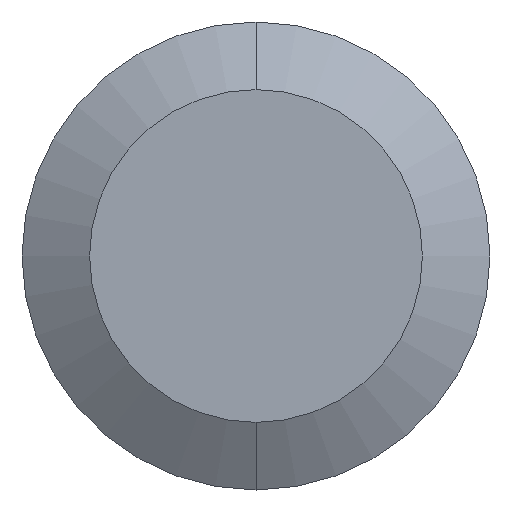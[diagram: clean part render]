
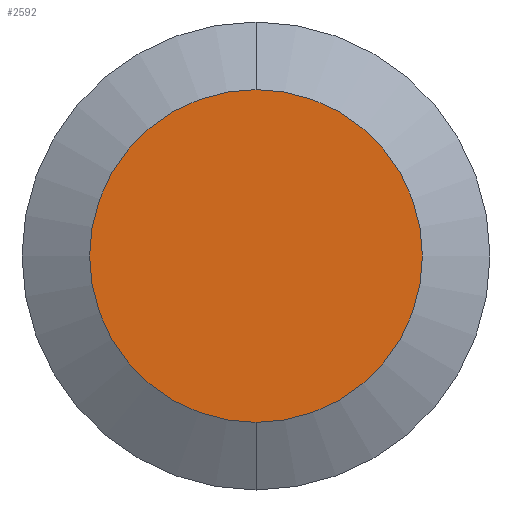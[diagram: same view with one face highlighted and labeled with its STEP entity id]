
A CAD part, front view. The second image highlights one B-rep face of the part: STEP entity #2592.
In plain terms, the highlighted planar face has unit normal (0, -1, 0).
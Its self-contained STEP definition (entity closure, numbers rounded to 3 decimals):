
#1272 = EDGE_CURVE ( 'NONE', #1372, #9513, #9046, .T. ) ;
#1372 = VERTEX_POINT ( 'NONE', #7666 ) ;
#1525 = DIRECTION ( 'NONE',  ( 0., 1., 0. ) ) ;
#2592 = ADVANCED_FACE ( 'NONE', ( #7992 ), #23673, .F. ) ;
#5721 = ORIENTED_EDGE ( 'NONE', *, *, #1272, .F. ) ;
#7666 = CARTESIAN_POINT ( 'NONE',  ( 0., 0., -1.067 ) ) ;
#7703 = DIRECTION ( 'NONE',  ( 0., 0., 1. ) ) ;
#7992 = FACE_OUTER_BOUND ( 'NONE', #8292, .T. ) ;
#8292 = EDGE_LOOP ( 'NONE', ( #23977, #5721 ) ) ;
#9046 = CIRCLE ( 'NONE', #34481, 1.067 ) ;
#9513 = VERTEX_POINT ( 'NONE', #31803 ) ;
#10995 = CIRCLE ( 'NONE', #24974, 1.067 ) ;
#16785 = DIRECTION ( 'NONE',  ( 0., 1., 0. ) ) ;
#20694 = CARTESIAN_POINT ( 'NONE',  ( 0., 0., 0. ) ) ;
#23673 = PLANE ( 'NONE',  #26273 ) ;
#23880 = DIRECTION ( 'NONE',  ( 0., 0., 1. ) ) ;
#23977 = ORIENTED_EDGE ( 'NONE', *, *, #30683, .F. ) ;
#24974 = AXIS2_PLACEMENT_3D ( 'NONE', #20694, #1525, #23880 ) ;
#26273 = AXIS2_PLACEMENT_3D ( 'NONE', #39519, #26834, #7703 ) ;
#26834 = DIRECTION ( 'NONE',  ( 0., 1., 0. ) ) ;
#30683 = EDGE_CURVE ( 'NONE', #9513, #1372, #10995, .T. ) ;
#31803 = CARTESIAN_POINT ( 'NONE',  ( 0., 0., 1.067 ) ) ;
#34481 = AXIS2_PLACEMENT_3D ( 'NONE', #35804, #16785, #39060 ) ;
#35804 = CARTESIAN_POINT ( 'NONE',  ( 0., 0., 0. ) ) ;
#39060 = DIRECTION ( 'NONE',  ( 0., 0., 1. ) ) ;
#39519 = CARTESIAN_POINT ( 'NONE',  ( 0., 0., 0. ) ) ;
